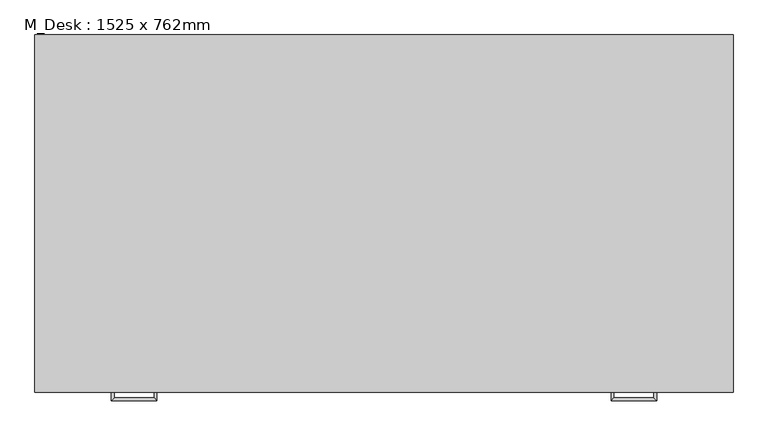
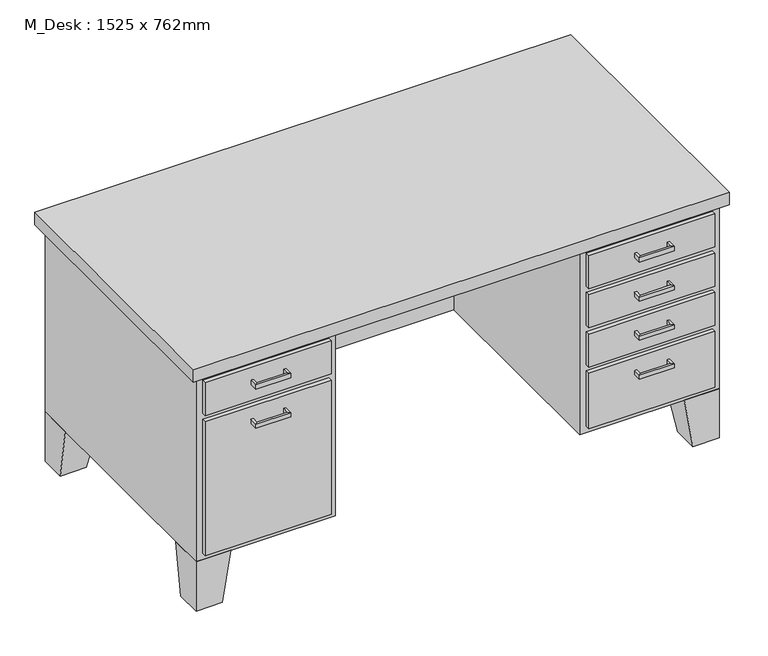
"""IFC4 building model written with IfcOpenShell, lengths in millimetres: furniture geometry, M_Desk : 1525 x 762mm."""

from ifc_helpers import new_model, si_unit, frame, origin, place, context, project, spatial, polyline, outline, extrude, faceted_brep, source, transform, mapped, element, save


def m_desk_1525_x_762mm_8f660baf(model_context):
    return source(origin(), model_context, "Body", "SolidModel", [
        extrude(outline(polyline([(18.55, 0.0), (386.85, 0.0), (386.85, -12.7), (18.55, -12.7), (18.55, 0.0)])), frame((0.0, 0.0, 603.25), z_axis=(0.0, 0.0, 1.0), x_axis=(1.0, 0.0, 0.0)), (0.0, 0.0, 1.0), 101.6),
        extrude(outline(polyline([(18.55, 0.0), (386.85, 0.0), (386.85, -12.7), (18.55, -12.7), (18.55, 0.0)])), frame((0.0, 0.0, 171.05), z_axis=(0.0, 0.0, 1.0), x_axis=(1.0, 0.0, 0.0)), (0.0, 0.0, 1.0), 413.15),
        extrude(outline(polyline([(1137.15, 0.0), (1505.45, 0.0), (1505.45, -12.7), (1137.15, -12.7), (1137.15, 0.0)])), frame((0.0, 0.0, 602.85), z_axis=(0.0, 0.0, 1.0), x_axis=(1.0, 0.0, 0.0)), (0.0, 0.0, 1.0), 102.0),
        extrude(outline(polyline([(1137.15, 0.0), (1505.45, 0.0), (1505.45, -12.7), (1137.15, -12.7), (1137.15, 0.0)])), frame((0.0, 0.0, 171.05), z_axis=(0.0, 0.0, 1.0), x_axis=(1.0, 0.0, 0.0)), (0.0, 0.0, 1.0), 171.45),
        extrude(outline(polyline([(1137.15, 0.0), (1505.45, 0.0), (1505.45, -12.7), (1137.15, -12.7), (1137.15, 0.0)])), frame((0.0, 0.0, 482.2), z_axis=(0.0, 0.0, 1.0), x_axis=(1.0, 0.0, 0.0)), (0.0, 0.0, 1.0), 101.6),
        extrude(outline(polyline([(1137.15, 0.0), (1505.45, 0.0), (1505.45, -12.7), (1137.15, -12.7), (1137.15, 0.0)])), frame((0.0, 0.0, 361.55), z_axis=(0.0, 0.0, 1.0), x_axis=(1.0, 0.0, 0.0)), (0.0, 0.0, 1.0), 101.6),
        faceted_brep([(101.1, 0.0, 152.0), (101.1, 101.6, 152.0), (-0.5, 101.6, 152.0), (-0.5, 0.0, 152.0), (75.7, 0.0, 0.0), (-0.5, 0.0, 0.0), (-0.5, 76.2, 0.0), (75.7, 76.2, 0.0)], [[[0, 1, 2, 3]], [[4, 5, 6, 7]], [[4, 7, 1, 0]], [[7, 6, 2, 1]], [[6, 5, 3, 2]], [[5, 4, 0, 3]]]),
        faceted_brep([(101.1, 762.0, 152.0), (-0.5, 762.0, 152.0), (-0.5, 660.4, 152.0), (101.1, 660.4, 152.0), (75.7, 762.0, 0.0), (75.7, 685.8, 0.0), (-0.5, 685.8, 0.0), (-0.5, 762.0, 0.0)], [[[0, 1, 2, 3]], [[4, 5, 6, 7]], [[4, 7, 1, 0]], [[7, 6, 2, 1]], [[6, 5, 3, 2]], [[5, 4, 0, 3]]]),
        faceted_brep([(1422.9, 762.0, 152.0), (1422.9, 660.4, 152.0), (1524.5, 660.4, 152.0), (1524.5, 762.0, 152.0), (1448.3, 762.0, 0.0), (1524.5, 762.0, 0.0), (1524.5, 685.8, 0.0), (1448.3, 685.8, 0.0)], [[[0, 1, 2, 3]], [[4, 5, 6, 7]], [[4, 7, 1, 0]], [[7, 6, 2, 1]], [[6, 5, 3, 2]], [[5, 4, 0, 3]]]),
        faceted_brep([(1422.9, 0.0, 152.0), (1524.5, 0.0, 152.0), (1524.5, 101.6, 152.0), (1422.9, 101.6, 152.0), (1448.3, 0.0, 0.0), (1448.3, 76.2, 0.0), (1524.5, 76.2, 0.0), (1524.5, 0.0, 0.0)], [[[0, 1, 2, 3]], [[4, 5, 6, 7]], [[4, 7, 1, 0]], [[7, 6, 2, 1]], [[6, 5, 3, 2]], [[5, 4, 0, 3]]]),
        extrude(outline(polyline([(-19.55, -19.05), (-19.55, 781.05), (1543.55, 781.05), (1543.55, -19.05), (-19.55, -19.05)])), frame((0.0, 0.0, 723.9), z_axis=(0.0, 0.0, 1.0), x_axis=(1.0, 0.0, 0.0)), (0.0, 0.0, 1.0), 38.1),
        extrude(outline(polyline([(1118.1, 0.0), (1118.1, 635.0), (405.9, 635.0), (405.9, 0.0), (-0.5, 0.0), (-0.5, 762.0), (1524.5, 762.0), (1524.5, 0.0), (1118.1, 0.0)])), frame((0.0, 0.0, 152.0), z_axis=(0.0, 0.0, 1.0), x_axis=(1.0, 0.0, 0.0)), (0.0, 0.0, 1.0), 571.9),
        faceted_brep([(158.25, -12.7, 546.1), (158.25, -12.7, 533.4), (151.9, -12.7, 533.4), (151.9, -12.7, 546.1), (158.25, -31.75, 546.1), (158.25, -31.75, 533.4), (151.9, -38.1, 533.4), (151.9, -38.1, 546.1), (247.15, -31.75, 546.1), (247.15, -31.75, 533.4), (253.5, -38.1, 533.4), (253.5, -38.1, 546.1), (247.15, -12.7, 546.1), (253.5, -12.7, 546.1), (253.5, -12.7, 533.4), (247.15, -12.7, 533.4)], [[[0, 1, 2, 3]], [[1, 0, 4, 5]], [[2, 1, 5, 6]], [[3, 2, 6, 7]], [[0, 3, 7, 4]], [[5, 4, 8, 9]], [[6, 5, 9, 10]], [[7, 6, 10, 11]], [[4, 7, 11, 8]], [[12, 13, 14, 15]], [[9, 8, 12, 15]], [[10, 9, 15, 14]], [[11, 10, 14, 13]], [[8, 11, 13, 12]]]),
        faceted_brep([(158.25, -12.7, 666.75), (158.25, -12.7, 654.05), (151.9, -12.7, 654.05), (151.9, -12.7, 666.75), (158.25, -31.75, 666.75), (158.25, -31.75, 654.05), (151.9, -38.1, 654.05), (151.9, -38.1, 666.75), (247.15, -31.75, 666.75), (247.15, -31.75, 654.05), (253.5, -38.1, 654.05), (253.5, -38.1, 666.75), (247.15, -12.7, 666.75), (253.5, -12.7, 666.75), (253.5, -12.7, 654.05), (247.15, -12.7, 654.05)], [[[0, 1, 2, 3]], [[1, 0, 4, 5]], [[2, 1, 5, 6]], [[3, 2, 6, 7]], [[0, 3, 7, 4]], [[5, 4, 8, 9]], [[6, 5, 9, 10]], [[7, 6, 10, 11]], [[4, 7, 11, 8]], [[12, 13, 14, 15]], [[9, 8, 12, 15]], [[10, 9, 15, 14]], [[11, 10, 14, 13]], [[8, 11, 13, 12]]]),
        faceted_brep([(1365.75, -12.7, 304.8), (1372.1, -12.7, 304.8), (1372.1, -12.7, 292.1), (1365.75, -12.7, 292.1), (1365.75, -31.75, 304.8), (1372.1, -38.1, 304.8), (1372.1, -38.1, 292.1), (1365.75, -31.75, 292.1), (1276.85, -31.75, 304.8), (1270.5, -38.1, 304.8), (1270.5, -38.1, 292.1), (1276.85, -31.75, 292.1), (1276.85, -12.7, 304.8), (1276.85, -12.7, 292.1), (1270.5, -12.7, 292.1), (1270.5, -12.7, 304.8)], [[[0, 1, 2, 3]], [[1, 0, 4, 5]], [[2, 1, 5, 6]], [[3, 2, 6, 7]], [[0, 3, 7, 4]], [[5, 4, 8, 9]], [[6, 5, 9, 10]], [[7, 6, 10, 11]], [[4, 7, 11, 8]], [[12, 13, 14, 15]], [[9, 8, 12, 15]], [[10, 9, 15, 14]], [[11, 10, 14, 13]], [[8, 11, 13, 12]]]),
        faceted_brep([(1365.75, -12.7, 425.45), (1372.1, -12.7, 425.45), (1372.1, -12.7, 412.75), (1365.75, -12.7, 412.75), (1365.75, -31.75, 425.45), (1372.1, -38.1, 425.45), (1372.1, -38.1, 412.75), (1365.75, -31.75, 412.75), (1276.85, -31.75, 425.45), (1270.5, -38.1, 425.45), (1270.5, -38.1, 412.75), (1276.85, -31.75, 412.75), (1276.85, -12.7, 425.45), (1276.85, -12.7, 412.75), (1270.5, -12.7, 412.75), (1270.5, -12.7, 425.45)], [[[0, 1, 2, 3]], [[1, 0, 4, 5]], [[2, 1, 5, 6]], [[3, 2, 6, 7]], [[0, 3, 7, 4]], [[5, 4, 8, 9]], [[6, 5, 9, 10]], [[7, 6, 10, 11]], [[4, 7, 11, 8]], [[12, 13, 14, 15]], [[9, 8, 12, 15]], [[10, 9, 15, 14]], [[11, 10, 14, 13]], [[8, 11, 13, 12]]]),
        faceted_brep([(1365.75, -12.7, 546.1), (1372.1, -12.7, 546.1), (1372.1, -12.7, 533.4), (1365.75, -12.7, 533.4), (1365.75, -31.75, 546.1), (1372.1, -38.1, 546.1), (1372.1, -38.1, 533.4), (1365.75, -31.75, 533.4), (1276.85, -31.75, 546.1), (1270.5, -38.1, 546.1), (1270.5, -38.1, 533.4), (1276.85, -31.75, 533.4), (1276.85, -12.7, 546.1), (1276.85, -12.7, 533.4), (1270.5, -12.7, 533.4), (1270.5, -12.7, 546.1)], [[[0, 1, 2, 3]], [[1, 0, 4, 5]], [[2, 1, 5, 6]], [[3, 2, 6, 7]], [[0, 3, 7, 4]], [[5, 4, 8, 9]], [[6, 5, 9, 10]], [[7, 6, 10, 11]], [[4, 7, 11, 8]], [[12, 13, 14, 15]], [[9, 8, 12, 15]], [[10, 9, 15, 14]], [[11, 10, 14, 13]], [[8, 11, 13, 12]]]),
        faceted_brep([(1365.75, -12.7, 666.75), (1372.1, -12.7, 666.75), (1372.1, -12.7, 654.05), (1365.75, -12.7, 654.05), (1365.75, -31.75, 666.75), (1372.1, -38.1, 666.75), (1372.1, -38.1, 654.05), (1365.75, -31.75, 654.05), (1276.85, -31.75, 666.75), (1270.5, -38.1, 666.75), (1270.5, -38.1, 654.05), (1276.85, -31.75, 654.05), (1276.85, -12.7, 666.75), (1276.85, -12.7, 654.05), (1270.5, -12.7, 654.05), (1270.5, -12.7, 666.75)], [[[0, 1, 2, 3]], [[1, 0, 4, 5]], [[2, 1, 5, 6]], [[3, 2, 6, 7]], [[0, 3, 7, 4]], [[5, 4, 8, 9]], [[6, 5, 9, 10]], [[7, 6, 10, 11]], [[4, 7, 11, 8]], [[12, 13, 14, 15]], [[9, 8, 12, 15]], [[10, 9, 15, 14]], [[11, 10, 14, 13]], [[8, 11, 13, 12]]]),
    ])


if __name__ == "__main__":
    model = new_model("IFC4")
    model_context = context("Model", 3, world=origin())
    ifc_project = project(units=[si_unit("LENGTHUNIT", "METRE", prefix="MILLI")], contexts=[model_context])
    site = spatial("IfcSite", under=ifc_project)
    building = spatial("IfcBuilding", under=site)
    placement = place(None, origin())
    m_desk_1525_x_762mm_shape = m_desk_1525_x_762mm_8f660baf(model_context)
    element("IfcFurniture", 1, ObjectType="M_Desk : 1525 x 762mm", at=placement, inside=building, context=model_context, shape_type="MappedRepresentation", body=[
        mapped(m_desk_1525_x_762mm_shape, transform((0.0, 0.0, 0.0), x_axis=(1.0, 0.0, 0.0), y_axis=(0.0, 1.0, 0.0), z_axis=(0.0, 0.0, 1.0))),
    ])
    save(model, "model.ifc")
